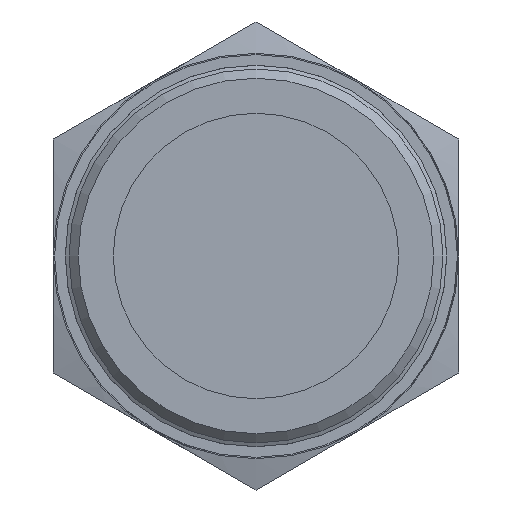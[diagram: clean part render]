
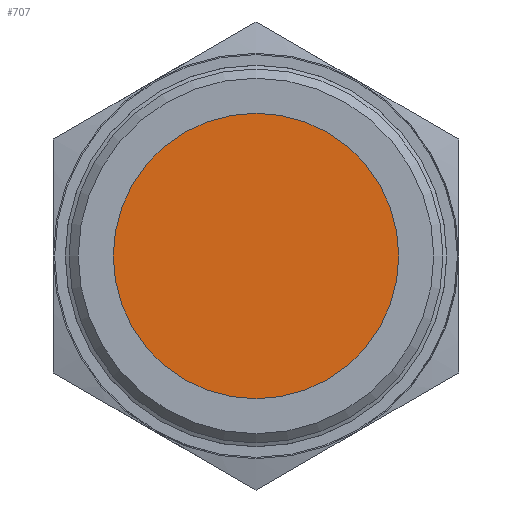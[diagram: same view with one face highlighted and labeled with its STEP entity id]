
A CAD part, left-side view. The second image highlights one B-rep face of the part: STEP entity #707.
In plain terms, the highlighted planar face has unit normal (-1, 0, 0).
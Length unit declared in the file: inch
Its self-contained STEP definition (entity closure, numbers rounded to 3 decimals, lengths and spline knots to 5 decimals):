
#707 = ADVANCED_FACE( '', ( #1595 ), #1596, .T. );
#1595 = FACE_OUTER_BOUND( '', #3819, .T. );
#1596 = PLANE( '', #3820 );
#3819 = EDGE_LOOP( '', ( #5850 ) );
#3820 = AXIS2_PLACEMENT_3D( '', #5851, #5852, #5853 );
#5850 = ORIENTED_EDGE( '', *, *, #7087, .T. );
#5851 = CARTESIAN_POINT( '', ( 0.25, 0., 0.8805 ) );
#5852 = DIRECTION( '', ( -1., 0., 0. ) );
#5853 = DIRECTION( '', ( 0., 0., 1. ) );
#7087 = EDGE_CURVE( '', #8177, #8177, #8178, .T. );
#8177 = VERTEX_POINT( '', #9885 );
#8178 = CIRCLE( '', #9886, 0.8805 );
#9885 = CARTESIAN_POINT( '', ( 0.25, 0., 0.8805 ) );
#9886 = AXIS2_PLACEMENT_3D( '', #12753, #12754, #12755 );
#12753 = CARTESIAN_POINT( '', ( 0.25, 0., 0. ) );
#12754 = DIRECTION( '', ( -1., 0., 0. ) );
#12755 = DIRECTION( '', ( 0., 0., 1. ) );
